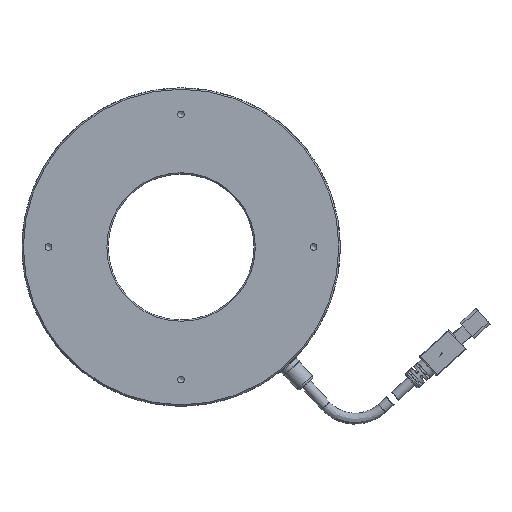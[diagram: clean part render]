
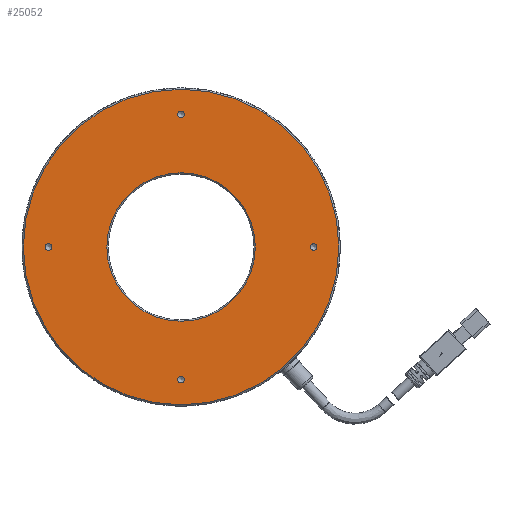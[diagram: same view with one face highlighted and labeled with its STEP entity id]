
A CAD part, front view. The second image highlights one B-rep face of the part: STEP entity #25052.
In plain terms, the highlighted planar face has unit normal (0, -1, 0).
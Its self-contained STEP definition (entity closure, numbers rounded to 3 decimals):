
#5 = AXIS2_PLACEMENT_3D ( 'NONE', #26258, #13695, #6359 ) ;
#869 = EDGE_CURVE ( 'NONE', #17267, #17267, #9865, .T. ) ;
#1500 = DIRECTION ( 'NONE',  ( 0., 0., 1. ) ) ;
#2057 = AXIS2_PLACEMENT_3D ( 'NONE', #5668, #11223, #13650 ) ;
#3692 = EDGE_LOOP ( 'NONE', ( #29110 ) ) ;
#4348 = VERTEX_POINT ( 'NONE', #15409 ) ;
#4665 = EDGE_LOOP ( 'NONE', ( #22355 ) ) ;
#5522 = DIRECTION ( 'NONE',  ( 0., 1., 0. ) ) ;
#5668 = CARTESIAN_POINT ( 'NONE',  ( 0., -49.548, 0. ) ) ;
#6006 = CIRCLE ( 'NONE', #5, 1.25 ) ;
#6359 = DIRECTION ( 'NONE',  ( 0., 0., 1. ) ) ;
#6821 = DIRECTION ( 'NONE',  ( 0., -1., 0. ) ) ;
#8300 = EDGE_LOOP ( 'NONE', ( #21774 ) ) ;
#8829 = CIRCLE ( 'NONE', #2057, 59.5 ) ;
#9102 = VERTEX_POINT ( 'NONE', #14065 ) ;
#9777 = DIRECTION ( 'NONE',  ( 0., 1., 0. ) ) ;
#9865 = CIRCLE ( 'NONE', #22037, 1.25 ) ;
#9915 = CIRCLE ( 'NONE', #11296, 28. ) ;
#10070 = FACE_BOUND ( 'NONE', #25774, .T. ) ;
#10521 = EDGE_CURVE ( 'NONE', #4348, #4348, #6006, .T. ) ;
#10527 = CARTESIAN_POINT ( 'NONE',  ( -50., -49.548, 1.25 ) ) ;
#10865 = FACE_BOUND ( 'NONE', #4665, .T. ) ;
#11214 = DIRECTION ( 'NONE',  ( 0., 1., 0. ) ) ;
#11223 = DIRECTION ( 'NONE',  ( 0., 1., 0. ) ) ;
#11296 = AXIS2_PLACEMENT_3D ( 'NONE', #19606, #6821, #32065 ) ;
#11557 = EDGE_CURVE ( 'NONE', #29008, #29008, #14678, .T. ) ;
#11608 = CARTESIAN_POINT ( 'NONE',  ( 0., -49.548, 50. ) ) ;
#12208 = ORIENTED_EDGE ( 'NONE', *, *, #20965, .F. ) ;
#13011 = EDGE_LOOP ( 'NONE', ( #12208 ) ) ;
#13644 = CARTESIAN_POINT ( 'NONE',  ( -50., -49.548, 0. ) ) ;
#13650 = DIRECTION ( 'NONE',  ( 0., 0., 1. ) ) ;
#13695 = DIRECTION ( 'NONE',  ( 0., 1., 0. ) ) ;
#14065 = CARTESIAN_POINT ( 'NONE',  ( 0., -49.548, 59.5 ) ) ;
#14678 = CIRCLE ( 'NONE', #23200, 1.25 ) ;
#15409 = CARTESIAN_POINT ( 'NONE',  ( 0., -49.548, -48.75 ) ) ;
#15437 = EDGE_CURVE ( 'NONE', #18661, #18661, #28375, .T. ) ;
#16084 = DIRECTION ( 'NONE',  ( 0., 0., 1. ) ) ;
#16826 = FACE_BOUND ( 'NONE', #27028, .T. ) ;
#17267 = VERTEX_POINT ( 'NONE', #23072 ) ;
#17332 = CARTESIAN_POINT ( 'NONE',  ( -27.5, -49.548, 0. ) ) ;
#18661 = VERTEX_POINT ( 'NONE', #28315 ) ;
#18770 = DIRECTION ( 'NONE',  ( 0., 0., 1. ) ) ;
#19606 = CARTESIAN_POINT ( 'NONE',  ( 0., -49.548, 0. ) ) ;
#20785 = FACE_OUTER_BOUND ( 'NONE', #8300, .T. ) ;
#20965 = EDGE_CURVE ( 'NONE', #23410, #23410, #9915, .T. ) ;
#21590 = DIRECTION ( 'NONE',  ( 0., 1., 0. ) ) ;
#21774 = ORIENTED_EDGE ( 'NONE', *, *, #22913, .F. ) ;
#21964 = FACE_BOUND ( 'NONE', #3692, .T. ) ;
#22037 = AXIS2_PLACEMENT_3D ( 'NONE', #11608, #21590, #1500 ) ;
#22355 = ORIENTED_EDGE ( 'NONE', *, *, #10521, .T. ) ;
#22913 = EDGE_CURVE ( 'NONE', #9102, #9102, #8829, .T. ) ;
#23072 = CARTESIAN_POINT ( 'NONE',  ( 0., -49.548, 51.25 ) ) ;
#23200 = AXIS2_PLACEMENT_3D ( 'NONE', #13644, #11214, #18770 ) ;
#23410 = VERTEX_POINT ( 'NONE', #26737 ) ;
#23561 = AXIS2_PLACEMENT_3D ( 'NONE', #23759, #5522, #16084 ) ;
#23584 = FACE_BOUND ( 'NONE', #13011, .T. ) ;
#23759 = CARTESIAN_POINT ( 'NONE',  ( 50., -49.548, 0. ) ) ;
#25052 = ADVANCED_FACE ( 'NONE', ( #20785, #23584, #16826, #21964, #10865, #10070 ), #27092, .F. ) ;
#25774 = EDGE_LOOP ( 'NONE', ( #31299 ) ) ;
#26258 = CARTESIAN_POINT ( 'NONE',  ( 0., -49.548, -50. ) ) ;
#26737 = CARTESIAN_POINT ( 'NONE',  ( 0., -49.548, -28. ) ) ;
#26859 = AXIS2_PLACEMENT_3D ( 'NONE', #17332, #9777, #27538 ) ;
#27028 = EDGE_LOOP ( 'NONE', ( #32518 ) ) ;
#27092 = PLANE ( 'NONE',  #26859 ) ;
#27538 = DIRECTION ( 'NONE',  ( 0., 0., 1. ) ) ;
#28315 = CARTESIAN_POINT ( 'NONE',  ( 50., -49.548, 1.25 ) ) ;
#28375 = CIRCLE ( 'NONE', #23561, 1.25 ) ;
#29008 = VERTEX_POINT ( 'NONE', #10527 ) ;
#29110 = ORIENTED_EDGE ( 'NONE', *, *, #11557, .T. ) ;
#31299 = ORIENTED_EDGE ( 'NONE', *, *, #15437, .T. ) ;
#32065 = DIRECTION ( 'NONE',  ( 0., 0., -1. ) ) ;
#32518 = ORIENTED_EDGE ( 'NONE', *, *, #869, .T. ) ;
